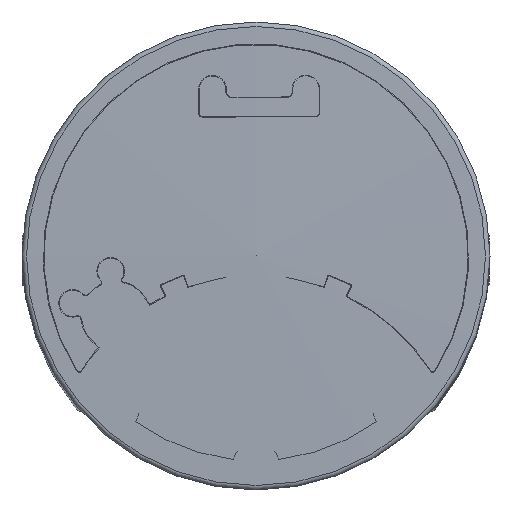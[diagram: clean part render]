
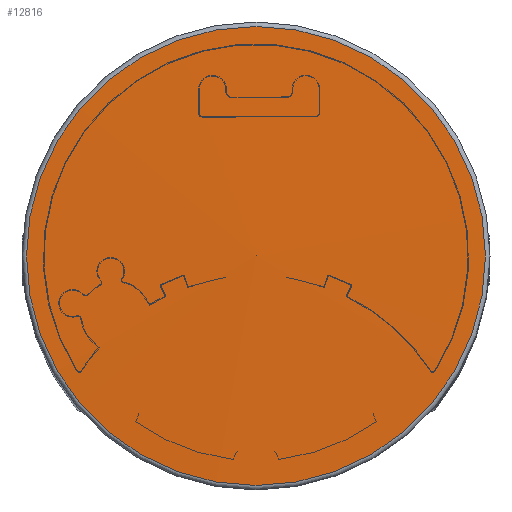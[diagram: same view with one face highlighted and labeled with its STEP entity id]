
A CAD part, top view. The second image highlights one B-rep face of the part: STEP entity #12816.
In plain terms, the highlighted spherical face has radius 1888.43 mm.
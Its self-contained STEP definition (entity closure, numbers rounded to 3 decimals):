
#160=SPHERICAL_SURFACE('',#19946,1888.426);
#2767=ORIENTED_EDGE('',*,*,#6503,.T.);
#6503=EDGE_CURVE('',#8405,#8405,#9512,.F.);
#8405=VERTEX_POINT('',#26792);
#9512=CIRCLE('',#19947,73.786);
#10582=EDGE_LOOP('',(#2767));
#11633=FACE_BOUND('',#10582,.T.);
#12816=ADVANCED_FACE('',(#11633),#160,.T.);
#19946=AXIS2_PLACEMENT_3D('',#26790,#22220,#22221);
#19947=AXIS2_PLACEMENT_3D('',#26791,#22222,#22223);
#22220=DIRECTION('',(0.,0.,1.));
#22221=DIRECTION('',(0.,1.,0.));
#22222=DIRECTION('',(0.,0.,-1.));
#22223=DIRECTION('',(1.,0.,0.));
#26790=CARTESIAN_POINT('',(0.,0.,
-1871.926));
#26791=CARTESIAN_POINT('',(0.,0.,15.058));
#26792=CARTESIAN_POINT('',(73.786,0.,15.058));
